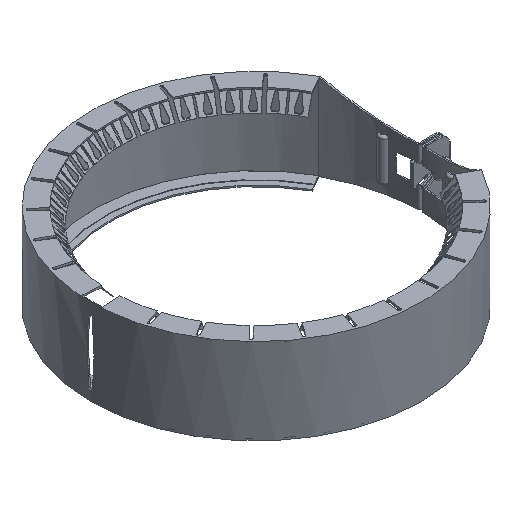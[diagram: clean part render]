
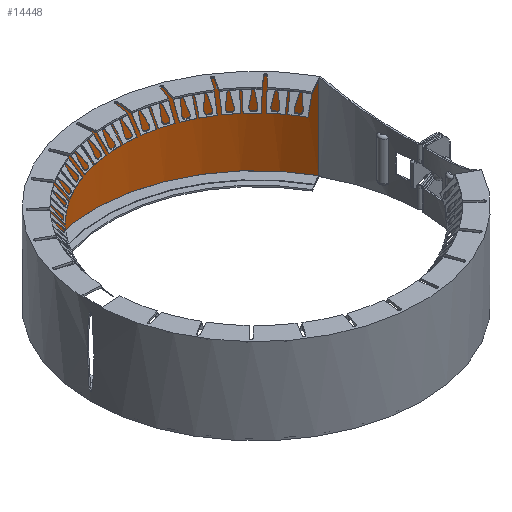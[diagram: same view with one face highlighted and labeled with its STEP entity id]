
A CAD part, isometric view. The second image highlights one B-rep face of the part: STEP entity #14448.
In plain terms, the highlighted cylindrical face has radius 94.75 mm (diameter 189.5 mm), a partial arc.
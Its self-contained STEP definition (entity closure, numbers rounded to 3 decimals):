
#1956=LINE('',#27200,#2967);
#1957=LINE('',#27201,#2968);
#2967=VECTOR('',#19015,47.8);
#2968=VECTOR('',#19016,47.8);
#3465=CIRCLE('',#15607,94.75);
#3478=CIRCLE('',#15645,94.75);
#3682=CYLINDRICAL_SURFACE('',#15646,94.75);
#4369=FACE_OUTER_BOUND('',#5128,.T.);
#5128=EDGE_LOOP('',(#12894,#12895,#12896,#12897));
#6699=VERTEX_POINT('',#27115);
#6700=VERTEX_POINT('',#27117);
#6716=VERTEX_POINT('',#27194);
#6717=VERTEX_POINT('',#27196);
#8774=EDGE_CURVE('',#6699,#6700,#3465,.T.);
#8808=EDGE_CURVE('',#6716,#6717,#3478,.T.);
#8809=EDGE_CURVE('',#6716,#6699,#1956,.T.);
#8810=EDGE_CURVE('',#6700,#6717,#1957,.T.);
#12894=ORIENTED_EDGE('',*,*,#8809,.F.);
#12895=ORIENTED_EDGE('',*,*,#8808,.T.);
#12896=ORIENTED_EDGE('',*,*,#8810,.F.);
#12897=ORIENTED_EDGE('',*,*,#8774,.F.);
#14448=ADVANCED_FACE('',(#4369),#3682,.F.);
#15607=AXIS2_PLACEMENT_3D('',#27118,#18916,#18917);
#15645=AXIS2_PLACEMENT_3D('',#27198,#19011,#19012);
#15646=AXIS2_PLACEMENT_3D('',#27199,#19013,#19014);
#18916=DIRECTION('center_axis',(0.,0.,
-1.));
#18917=DIRECTION('ref_axis',(-0.998,0.063,0.));
#19011=DIRECTION('center_axis',(0.,0.,
-1.));
#19012=DIRECTION('ref_axis',(-0.998,0.063,0.));
#19013=DIRECTION('center_axis',(0.,0.,
-1.));
#19014=DIRECTION('ref_axis',(-0.998,0.063,0.));
#19015=DIRECTION('',(0.,0.,1.));
#19016=DIRECTION('',(0.,0.,-1.));
#27115=CARTESIAN_POINT('',(-94.563,5.95,23.9));
#27117=CARTESIAN_POINT('',(82.637,46.354,23.9));
#27118=CARTESIAN_POINT('Origin',(0.,0.,
23.9));
#27194=CARTESIAN_POINT('',(-94.563,5.95,-23.9));
#27196=CARTESIAN_POINT('',(82.637,46.354,-23.9));
#27198=CARTESIAN_POINT('Origin',(0.,0.,
-23.9));
#27199=CARTESIAN_POINT('Origin',(0.,0.,
0.));
#27200=CARTESIAN_POINT('',(-94.563,5.95,-23.9));
#27201=CARTESIAN_POINT('',(82.637,46.354,-23.9));
